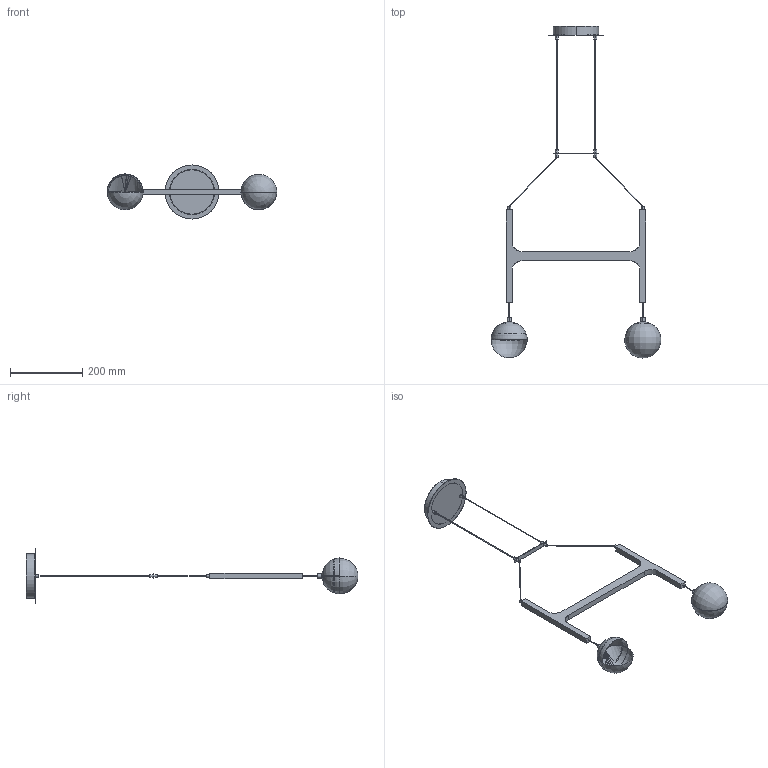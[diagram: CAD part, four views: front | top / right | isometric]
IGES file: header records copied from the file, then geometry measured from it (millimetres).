
Start section: SolidWorks IGES file using analytic representation for surfaces
Global section: file name: F:\燠隴矨\3D\2025-11\Lunna Orb Chandelier-2headA.IGS,15; native system: HSolidWorks 2022; preprocessor: SolidWorks 2022; author: MyPC; date: 251108.142813; units: millimetre
Bounding box: 470.82 x 920.9 x 150 mm (x, y, z)
Surface area: 279756.8 mm2 (no closed solid volume)
Topology: 0 solids, 0 shells, 119 faces, 2312 edges, 2306 vertices
Faces by surface type: bspline 65, revolution 54
